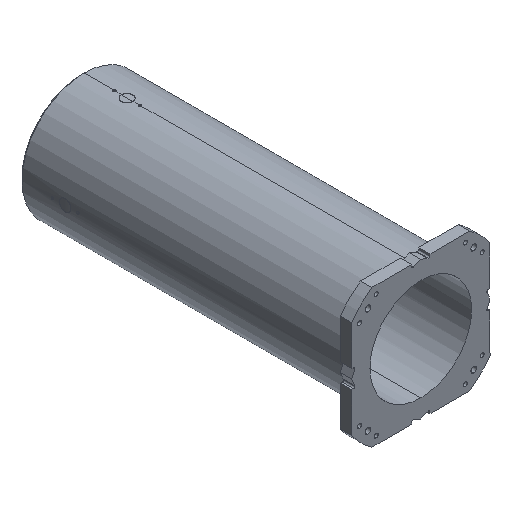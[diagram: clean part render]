
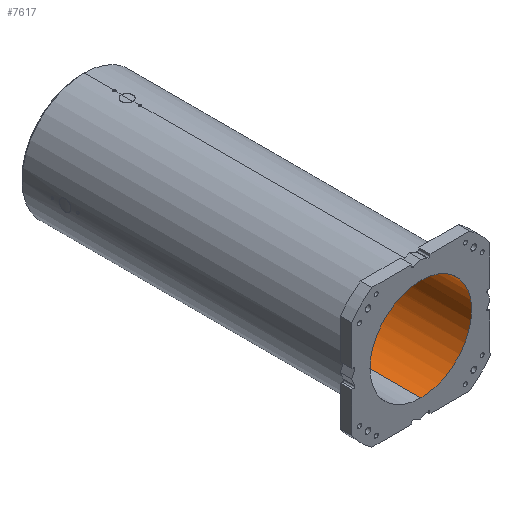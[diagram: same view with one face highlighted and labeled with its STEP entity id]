
A CAD part, isometric view. The second image highlights one B-rep face of the part: STEP entity #7617.
In plain terms, the highlighted cylindrical face has radius 180 mm (diameter 360 mm), a partial arc.
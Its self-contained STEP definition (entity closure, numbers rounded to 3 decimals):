
#61 = CARTESIAN_POINT ( 'NONE',  ( 0., 0., -180. ) ) ;
#216 = EDGE_LOOP ( 'NONE', ( #11491, #8619, #594, #6082, #3261, #5878, #7405, #5575 ) ) ;
#224 = CARTESIAN_POINT ( 'NONE',  ( 0., 0., 0. ) ) ;
#275 = VERTEX_POINT ( 'NONE', #6580 ) ;
#410 = AXIS2_PLACEMENT_3D ( 'NONE', #4941, #10190, #9160 ) ;
#461 = DIRECTION ( 'NONE',  ( 0., 1., 0. ) ) ;
#594 = ORIENTED_EDGE ( 'NONE', *, *, #10710, .T. ) ;
#716 = DIRECTION ( 'NONE',  ( 0., 0., 1. ) ) ;
#777 = VERTEX_POINT ( 'NONE', #4331 ) ;
#1092 = DIRECTION ( 'NONE',  ( 0., 1., 0. ) ) ;
#1183 = AXIS2_PLACEMENT_3D ( 'NONE', #5707, #461, #10112 ) ;
#1424 = VERTEX_POINT ( 'NONE', #9845 ) ;
#2187 = VERTEX_POINT ( 'NONE', #61 ) ;
#2198 = DIRECTION ( 'NONE',  ( 0., 1., 0. ) ) ;
#2354 = DIRECTION ( 'NONE',  ( 0., 0., 1. ) ) ;
#2381 = DIRECTION ( 'NONE',  ( 0., 0., 1. ) ) ;
#2859 = CARTESIAN_POINT ( 'NONE',  ( 123.123, 1163., -131.304 ) ) ;
#3017 = LINE ( 'NONE', #6587, #3306 ) ;
#3058 = CARTESIAN_POINT ( 'NONE',  ( 0., 1163., 0. ) ) ;
#3126 = CIRCLE ( 'NONE', #11153, 180. ) ;
#3261 = ORIENTED_EDGE ( 'NONE', *, *, #8223, .T. ) ;
#3306 = VECTOR ( 'NONE', #2198, 1000. ) ;
#3396 = DIRECTION ( 'NONE',  ( 0., 1., 0. ) ) ;
#3486 = CARTESIAN_POINT ( 'NONE',  ( 0., 0., 0. ) ) ;
#3759 = DIRECTION ( 'NONE',  ( 0., 0., 1. ) ) ;
#3985 = AXIS2_PLACEMENT_3D ( 'NONE', #8625, #6859, #2354 ) ;
#4212 = VECTOR ( 'NONE', #10319, 1000. ) ;
#4303 = FACE_OUTER_BOUND ( 'NONE', #216, .T. ) ;
#4331 = CARTESIAN_POINT ( 'NONE',  ( 0., 1163., -180. ) ) ;
#4422 = CYLINDRICAL_SURFACE ( 'NONE', #7877, 180. ) ;
#4652 = VERTEX_POINT ( 'NONE', #9260 ) ;
#4784 = AXIS2_PLACEMENT_3D ( 'NONE', #7098, #6235, #9770 ) ;
#4797 = VERTEX_POINT ( 'NONE', #2859 ) ;
#4941 = CARTESIAN_POINT ( 'NONE',  ( 0., 1163., 0. ) ) ;
#4956 = CARTESIAN_POINT ( 'NONE',  ( 0., 0., -180. ) ) ;
#5109 = VERTEX_POINT ( 'NONE', #10157 ) ;
#5574 = EDGE_CURVE ( 'NONE', #4797, #777, #10697, .T. ) ;
#5575 = ORIENTED_EDGE ( 'NONE', *, *, #5574, .T. ) ;
#5707 = CARTESIAN_POINT ( 'NONE',  ( 0., 1163., 0. ) ) ;
#5878 = ORIENTED_EDGE ( 'NONE', *, *, #11386, .T. ) ;
#5989 = EDGE_CURVE ( 'NONE', #8195, #275, #8971, .T. ) ;
#6082 = ORIENTED_EDGE ( 'NONE', *, *, #5989, .T. ) ;
#6191 = EDGE_CURVE ( 'NONE', #5109, #2187, #8207, .T. ) ;
#6212 = AXIS2_PLACEMENT_3D ( 'NONE', #224, #1092, #3759 ) ;
#6235 = DIRECTION ( 'NONE',  ( 0., 1., 0. ) ) ;
#6580 = CARTESIAN_POINT ( 'NONE',  ( 123.123, 1163., 131.304 ) ) ;
#6587 = CARTESIAN_POINT ( 'NONE',  ( 0., 0., 180. ) ) ;
#6817 = LINE ( 'NONE', #4956, #4212 ) ;
#6859 = DIRECTION ( 'NONE',  ( 0., 1., 0. ) ) ;
#7098 = CARTESIAN_POINT ( 'NONE',  ( 0., 1163., 0. ) ) ;
#7405 = ORIENTED_EDGE ( 'NONE', *, *, #9175, .T. ) ;
#7617 = ADVANCED_FACE ( 'NONE', ( #4303 ), #4422, .F. ) ;
#7877 = AXIS2_PLACEMENT_3D ( 'NONE', #3486, #9609, #716 ) ;
#8195 = VERTEX_POINT ( 'NONE', #9336 ) ;
#8207 = CIRCLE ( 'NONE', #6212, 180. ) ;
#8223 = EDGE_CURVE ( 'NONE', #275, #4652, #9010, .T. ) ;
#8619 = ORIENTED_EDGE ( 'NONE', *, *, #6191, .F. ) ;
#8625 = CARTESIAN_POINT ( 'NONE',  ( 0., 1163., 0. ) ) ;
#8708 = EDGE_CURVE ( 'NONE', #2187, #777, #6817, .T. ) ;
#8971 = CIRCLE ( 'NONE', #410, 180. ) ;
#9010 = CIRCLE ( 'NONE', #1183, 180. ) ;
#9160 = DIRECTION ( 'NONE',  ( 0., 0., 1. ) ) ;
#9175 = EDGE_CURVE ( 'NONE', #1424, #4797, #9783, .T. ) ;
#9260 = CARTESIAN_POINT ( 'NONE',  ( 131.304, 1163., 123.123 ) ) ;
#9336 = CARTESIAN_POINT ( 'NONE',  ( 0., 1163., 180. ) ) ;
#9609 = DIRECTION ( 'NONE',  ( 0., 1., 0. ) ) ;
#9770 = DIRECTION ( 'NONE',  ( 0., 0., 1. ) ) ;
#9783 = CIRCLE ( 'NONE', #4784, 180. ) ;
#9845 = CARTESIAN_POINT ( 'NONE',  ( 131.304, 1163., -123.123 ) ) ;
#10112 = DIRECTION ( 'NONE',  ( 0., 0., 1. ) ) ;
#10157 = CARTESIAN_POINT ( 'NONE',  ( 0., 0., 180. ) ) ;
#10190 = DIRECTION ( 'NONE',  ( 0., 1., 0. ) ) ;
#10319 = DIRECTION ( 'NONE',  ( 0., 1., 0. ) ) ;
#10697 = CIRCLE ( 'NONE', #3985, 180. ) ;
#10710 = EDGE_CURVE ( 'NONE', #5109, #8195, #3017, .T. ) ;
#11153 = AXIS2_PLACEMENT_3D ( 'NONE', #3058, #3396, #2381 ) ;
#11386 = EDGE_CURVE ( 'NONE', #4652, #1424, #3126, .T. ) ;
#11491 = ORIENTED_EDGE ( 'NONE', *, *, #8708, .F. ) ;
